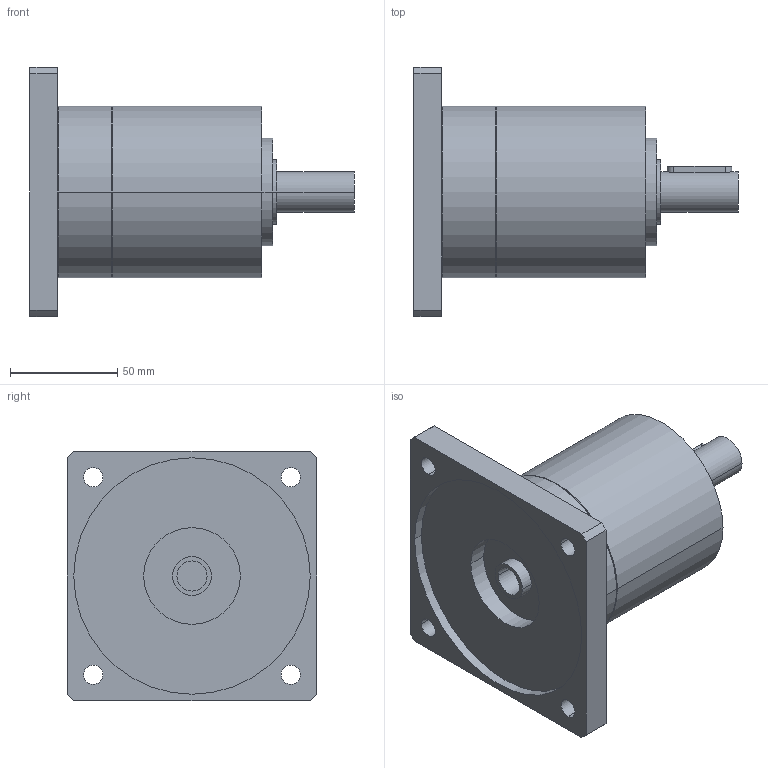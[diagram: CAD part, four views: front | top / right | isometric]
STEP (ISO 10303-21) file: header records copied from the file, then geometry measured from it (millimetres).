
FILE_DESCRIPTION(('CoCreate Modeling STEP Export'),'2;1');
FILE_NAME('GPR100_ig-3-4-5-6_19_B14_14_P08.stp','2014-08-26T10:07:06',(''),(''),'CoCreate Modeling STEP processor for AP214 (Solid Model)','CoCreate Modeling 16.00C 25-Feb-2009 (C) Parametric Technology GmbH','');
FILE_SCHEMA(('AUTOMOTIVE_DESIGN { 1 0 10303 214 1 1 1 1 }'));
Length unit declared in the file: millimetre
Products named in the file (2): GPR100_ig-3-4-5-6_19_B14_14_P08
Assembly tree (1 placements, depth 2):
  GPR100_ig-3-4-5-6_19_B14_14_P08
    GPR100_ig-3-4-5-6_19_B14_14_P08
Bounding box: 151 x 116 x 116 mm (x, y, z)
Volume: 609527 mm3; surface area: 67082.1 mm2
Topology: 1 solids, 1 shells, 70 faces, 189 edges, 133 vertices
Faces by surface type: cylinder 42, plane 22, cone 6
Entity records: 1944 total; most frequent: ORIENTED_EDGE 374, CARTESIAN_POINT 361, DIRECTION 262, EDGE_CURVE 187, VERTEX_POINT 133, AXIS2_PLACEMENT_3D 98, EDGE_LOOP 92, FACE_OUTER_BOUND 70
